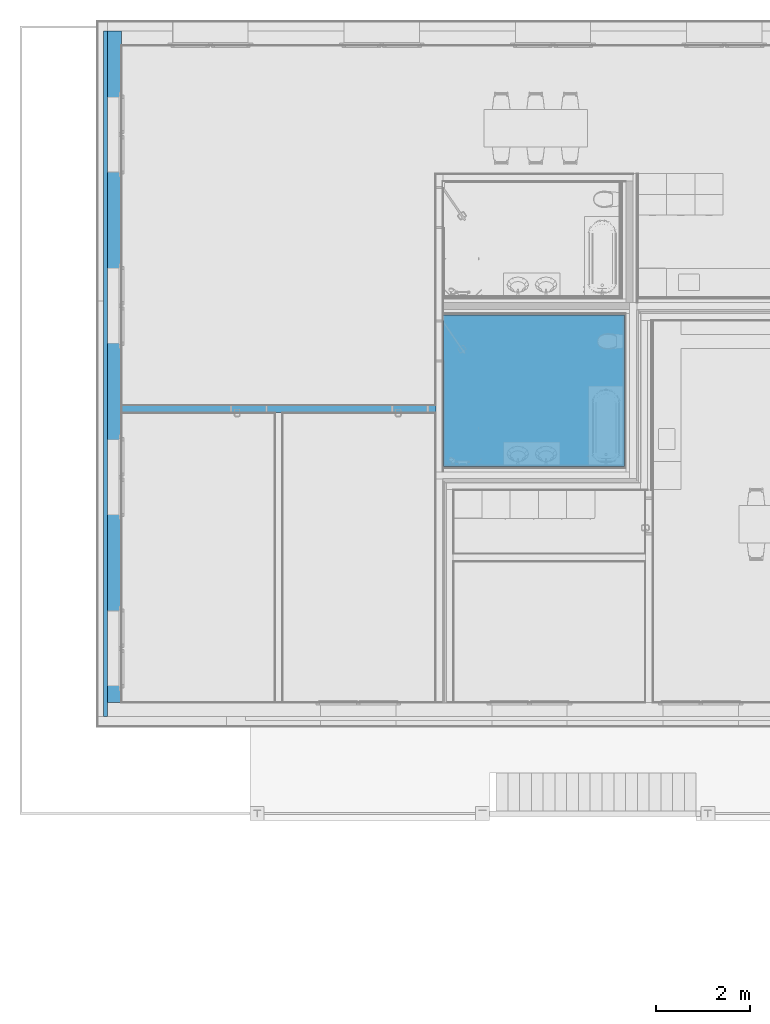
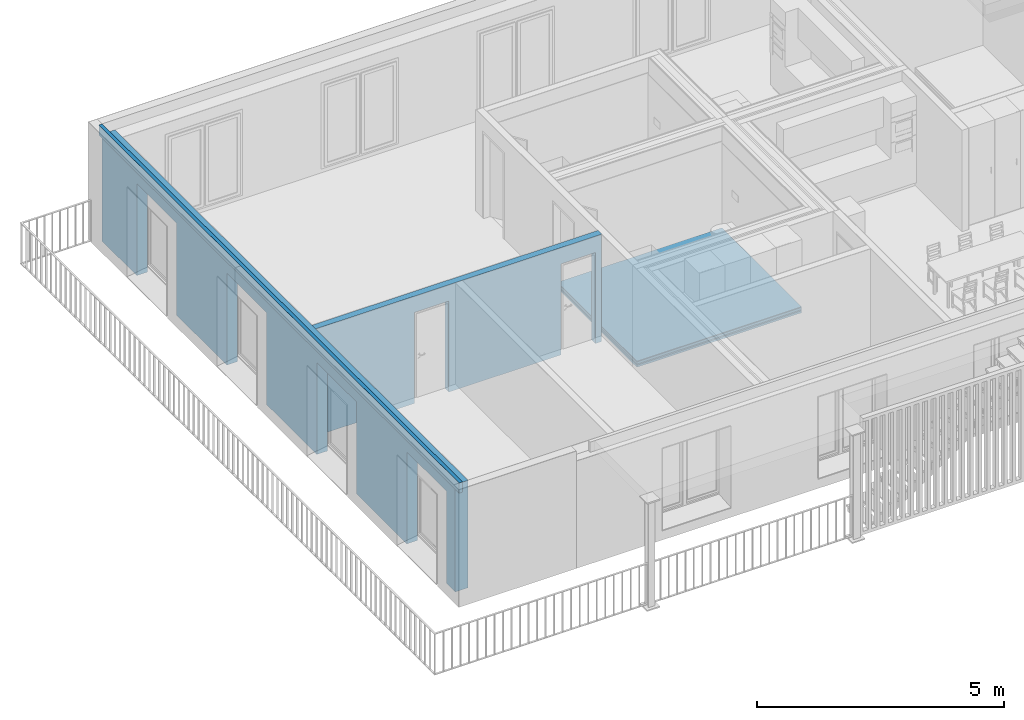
# One storey, part 6 of 34: 6 building element parts, 1 discrete accessory, 6 openings, 3 elements without a shape of their own.
"""IFC4 building model written with IfcOpenShell, lengths in millimetres."""

from ifc_helpers import new_model, entity, si_unit, converted_unit, derived_unit, direction, frame, origin_with_axes, place, context, subcontext, project, spatial, polygons, material, type_object, element, aggregate, save


model = new_model("IFC4")

# Units and contexts
model_context = context("Model", 3, precision=0.01, world=origin_with_axes(), true_north=direction((0.0, 1.0)))
body_context = subcontext(model_context, "Body", "Model", "MODEL_VIEW")
ifc_project = project(units=[si_unit("LENGTHUNIT", "METRE", prefix="MILLI"), si_unit("AREAUNIT", "SQUARE_METRE"), si_unit("VOLUMEUNIT", "CUBIC_METRE"), converted_unit("PLANEANGLEUNIT", "DEGREE", entity("IfcPlaneAngleMeasure", 0.0174532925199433), si_unit("PLANEANGLEUNIT", "RADIAN"), dimensions=[0, 0, 0, 0, 0, 0, 0]), converted_unit("TIMEUNIT", "Year", entity("IfcTimeMeasure", 31557600.0), si_unit("TIMEUNIT", "SECOND"), dimensions=[0, 0, 1, 0, 0, 0, 0]), si_unit("MASSUNIT", "GRAM", prefix="KILO"), si_unit("THERMODYNAMICTEMPERATUREUNIT", "DEGREE_CELSIUS"), si_unit("LUMINOUSINTENSITYUNIT", "LUMEN"), si_unit("ENERGYUNIT", "JOULE", prefix="MEGA"), derived_unit("THERMALCONDUCTANCEUNIT", [(si_unit("POWERUNIT", "WATT"), 1), (si_unit("LENGTHUNIT", "METRE"), -1), (si_unit("THERMODYNAMICTEMPERATUREUNIT", "KELVIN"), -1)]), derived_unit("SPECIFICHEATCAPACITYUNIT", [(si_unit("ENERGYUNIT", "JOULE"), 1), (si_unit("MASSUNIT", "GRAM", prefix="KILO"), -1), (si_unit("THERMODYNAMICTEMPERATUREUNIT", "KELVIN"), -1)]), derived_unit("MASSDENSITYUNIT", [(si_unit("MASSUNIT", "GRAM", prefix="KILO"), 1), (si_unit("VOLUMEUNIT", "CUBIC_METRE"), -1)])], contexts=[model_context])

# Site, building, storey
site_placement = place(None, origin_with_axes())
site = spatial("IfcSite", under=ifc_project, at=site_placement, Name="Gelände", CompositionType="ELEMENT")
building_placement = place(site_placement, origin_with_axes())
building = spatial("IfcBuilding", under=site, at=building_placement, Name="Gebäude", CompositionType="ELEMENT")
storey_placement = place(building_placement, frame((0.0, 0.0, 5799.999999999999), z_axis=(0.0, 0.0, 1.0), x_axis=(1.0, 0.0, 0.0)))
storey = spatial("IfcBuildingStorey", under=building, at=storey_placement, Name="2.OG", CompositionType="ELEMENT", Elevation=5800.0)

# Discrete accessory
ifc_material_1 = material(Name="Bewehrung")
discrete_accessory_type = type_object("IfcDiscreteAccessoryType", Name="Bewehrung 80 x 250", PredefinedType="NOTDEFINED")
discrete_accessory_placement = place(storey_placement, frame((-6861.004181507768, 37737.5972813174, 2649.999948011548), z_axis=(0.0, 0.0, 1.0), x_axis=(-1.0, 0.0, 0.0)))
element("IfcDiscreteAccessory", 1, at=discrete_accessory_placement, inside=storey, type_object=discrete_accessory_type, material=ifc_material_1, Name="Unterzug-028", PredefinedType="NOTDEFINED", context=body_context, shape_type="Tessellation", body=[
    polygons([(0.0, 14580.00054054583, 0.0), (80.00000000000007, 14580.00054054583, 0.0), (80.00000000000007, 0.0, 0.0), (0.0, 0.0, 0.0), (0.0, 14580.00054054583, 250.0), (80.00000000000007, 14580.00054054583, 250.0), (80.00000000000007, 0.0, 250.0), (0.0, 0.0, 250.0)], [[[1, 2, 3, 4]], [[1, 5, 6, 2]], [[2, 6, 7, 3]], [[4, 3, 7, 8]], [[5, 1, 4, 8]], [[6, 5, 8, 7]]], closed=True),
])

# Covering, building element parts
covering_type = type_object("IfcCoveringType", Name="Bodenaufbau Typ 02 150", PredefinedType="NOTDEFINED")
covering_placement = place(storey_placement, frame((282.9958184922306, 31697.59722663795, 0.0), z_axis=(0.0, 0.0, 1.0), x_axis=(1.0, 0.0, 0.0)))
covering = element("IfcCovering", 2, at=covering_placement, inside=storey, type_object=covering_type, Name="Decke-007", PredefinedType="NOTDEFINED")
ifc_material_2 = material(Name="Unterlagsboden")
building_element_part_1_placement = place(covering_placement, origin_with_axes())
building_element_part_1 = element("IfcBuildingElementPart", 3, at=building_element_part_1_placement, material=ifc_material_2, Name="Unterlagsboden", PredefinedType="NOTDEFINED", context=body_context, shape_type="Tessellation", body=[
    polygons([(0.0, -3218.223841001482, 80.00000000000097), (0.0, -3218.223841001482, 135.0000000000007), (0.0, 0.0, 135.0000000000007), (0.0, 0.0, 80.00000000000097), (3848.000000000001, -3218.223841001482, 80.00000000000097), (3848.000000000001, -3218.223841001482, 135.0000000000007), (3848.000000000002, 5.467949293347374e-05, 135.0000000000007), (3848.000000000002, 5.467949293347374e-05, 80.00000000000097)], [[[1, 2, 3, 4]], [[5, 6, 2, 1]], [[3, 2, 6, 7]], [[4, 3, 7, 8]], [[4, 8, 5, 1]], [[8, 7, 6, 5]]], closed=True),
])
ifc_material_3 = material(Name="Keramik")
building_element_part_2_placement = place(covering_placement, origin_with_axes())
building_element_part_2 = element("IfcBuildingElementPart", 4, at=building_element_part_2_placement, material=ifc_material_3, Name="Keramik", PredefinedType="NOTDEFINED", context=body_context, shape_type="Tessellation", body=[
    polygons([(0.0, -3218.223841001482, 135.0000000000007), (0.0, -3218.223841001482, 150.0000000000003), (0.0, 0.0, 150.0000000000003), (0.0, 0.0, 135.0000000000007), (3848.000000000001, -3218.223841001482, 135.0000000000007), (3848.000000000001, -3218.223841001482, 150.0000000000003), (3848.000000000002, 5.467949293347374e-05, 150.0000000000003), (3848.000000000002, 5.467949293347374e-05, 135.0000000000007)], [[[1, 2, 3, 4]], [[5, 6, 2, 1]], [[3, 2, 6, 7]], [[4, 3, 7, 8]], [[4, 8, 5, 1]], [[8, 7, 6, 5]]], closed=True),
])
ifc_material_4 = material(Name="Trittschalldämmung")
building_element_part_3_placement = place(covering_placement, origin_with_axes())
building_element_part_3 = element("IfcBuildingElementPart", 5, at=building_element_part_3_placement, material=ifc_material_4, Name="Trittschalldämmung", PredefinedType="NOTDEFINED", context=body_context, shape_type="Tessellation", body=[
    polygons([(0.0, -3218.223841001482, 49.99999999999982), (0.0, -3218.223841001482, 80.00000000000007), (0.0, 0.0, 80.00000000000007), (0.0, 0.0, 49.99999999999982), (3848.000000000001, -3218.223841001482, 49.99999999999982), (3848.000000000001, -3218.223841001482, 80.00000000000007), (3848.000000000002, 5.467949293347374e-05, 80.00000000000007), (3848.000000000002, 5.467949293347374e-05, 49.99999999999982)], [[[1, 2, 3, 4]], [[5, 6, 2, 1]], [[3, 2, 6, 7]], [[4, 3, 7, 8]], [[4, 8, 5, 1]], [[8, 7, 6, 5]]], closed=True),
])
ifc_material_5 = material(Name="Dämmung Innen")
building_element_part_4_placement = place(covering_placement, origin_with_axes())
building_element_part_4 = element("IfcBuildingElementPart", 6, at=building_element_part_4_placement, material=ifc_material_5, Name="Dämmung Innen", PredefinedType="NOTDEFINED", context=body_context, shape_type="Tessellation", body=[
    polygons([(0.0, 0.0, 0.0), (0.0, -3218.223841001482, 0.0), (0.0, -3218.223841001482, 50.00000000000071), (0.0, 0.0, 50.00000000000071), (3848.000000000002, 5.467949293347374e-05, 0.0), (3848.000000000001, -3218.223841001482, 0.0), (3848.000000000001, -3218.223841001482, 50.00000000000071), (3848.000000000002, 5.467949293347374e-05, 50.00000000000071)], [[[1, 2, 3, 4]], [[1, 5, 6, 2]], [[2, 6, 7, 3]], [[4, 3, 7, 8]], [[5, 1, 4, 8]], [[6, 5, 8, 7]]], closed=True),
])
aggregate(covering, [building_element_part_1, building_element_part_2, building_element_part_3, building_element_part_4])

# Wall, openings, building element part
wall_type_1 = type_object("IfcWallType", Name="Innenwand Typ 05 170", PredefinedType="NOTDEFINED")
wall_1_placement = place(storey_placement, frame((-6561.004181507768, 29785.08426010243, 0.0), z_axis=(0.0, 0.0, 1.0), x_axis=(1.0, 0.0, 0.0)))
wall_1 = element("IfcWall", 7, at=wall_1_placement, inside=storey, type_object=wall_type_1, Name="Wand-014", PredefinedType="NOTDEFINED")
opening_1_placement = place(wall_1_placement, frame((2710.000000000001, 0.0, 150.0000000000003), z_axis=(0.0, 0.0, 1.0), x_axis=(1.0, 0.0, 0.0)))
element("IfcOpeningElement", 8, at=opening_1_placement, cuts=wall_1, Name="Tür-011", context=body_context, identifier="Reference", shape_type="Tessellation", body=[
    polygons([(-399.9999999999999, -171.0000000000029, 2100.0), (-399.9999999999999, -171.0000000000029, -150.0000000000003), (399.9999999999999, -171.0000000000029, -150.0000000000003), (399.9999999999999, -171.0000000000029, 2100.0), (-399.9999999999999, 1.000000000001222, 2100.0), (-399.9999999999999, 1.000000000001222, -150.0000000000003), (399.9999999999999, 1.000000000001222, -150.0000000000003), (399.9999999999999, 1.000000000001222, 2100.0)], [[[1, 2, 3, 4]], [[5, 6, 2, 1]], [[6, 7, 3, 2]], [[7, 8, 4, 3]], [[8, 5, 1, 4]], [[7, 6, 5, 8]]], closed=True),
])
opening_2_placement = place(wall_1_placement, frame((6133.999999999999, 0.0, 150.0000000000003), z_axis=(0.0, 0.0, 1.0), x_axis=(1.0, 0.0, 0.0)))
element("IfcOpeningElement", 9, at=opening_2_placement, cuts=wall_1, Name="Tür-011", context=body_context, identifier="Reference", shape_type="Tessellation", body=[
    polygons([(-400.0, -171.0000000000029, 2100.0), (-400.0, -171.0000000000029, -150.0000000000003), (400.0, -171.0000000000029, -150.0000000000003), (400.0, -171.0000000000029, 2100.0), (-400.0, 1.000000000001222, 2100.0), (-400.0, 1.000000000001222, -150.0000000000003), (400.0, 1.000000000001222, -150.0000000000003), (400.0, 1.000000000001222, 2100.0)], [[[1, 2, 3, 4]], [[5, 6, 2, 1]], [[6, 7, 3, 2]], [[7, 8, 4, 3]], [[8, 5, 1, 4]], [[7, 6, 5, 8]]], closed=True),
])
ifc_material_6 = material(Name="MW, Backstein")
building_element_part_5_placement = place(wall_1_placement, origin_with_axes())
building_element_part_5 = element("IfcBuildingElementPart", 10, at=building_element_part_5_placement, material=ifc_material_6, Name="MW, Backstein", PredefinedType="NOTDEFINED", context=body_context, shape_type="Tessellation", body=[
    polygons([(2310.000000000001, -9.99999999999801, 2250.0), (2310.000000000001, -9.99999999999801, 150.0000000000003), (2310.000000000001, -10.00000000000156, 0.0), (0.0, -10.00000000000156, 0.0), (0.0, -10.00000000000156, 2649.999948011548), (6683.999999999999, -9.99999999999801, 2649.999948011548), (6683.999999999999, -9.99999999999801, 0.0), (6534.0, -9.99999999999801, 0.0), (6533.999999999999, -9.99999999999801, 150.0000000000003), (6533.999999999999, -9.99999999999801, 2250.0), (5734.0, -9.99999999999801, 2250.0), (5734.0, -9.99999999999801, 150.0000000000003), (5734.0, -9.99999999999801, 0.0), (3110.000000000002, -10.00000000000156, 0.0), (3110.000000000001, -9.99999999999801, 150.0000000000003), (3110.000000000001, -9.99999999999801, 2250.0), (2310.000000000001, -160.0000000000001, 2250.0), (2310.000000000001, -160.0000000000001, 150.0000000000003), (2310.000000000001, -160.0000000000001, 0.0), (0.0, -160.0000000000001, 0.0), (0.0, -160.0000000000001, 2649.999948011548), (6683.999999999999, -160.0000000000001, 2649.999948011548), (6683.999999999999, -160.0000000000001, 0.0), (6534.0, -160.0000000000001, 0.0), (6533.999999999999, -160.0000000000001, 150.0000000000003), (6533.999999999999, -160.0000000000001, 2250.0), (5734.0, -160.0000000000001, 2250.0), (5734.0, -160.0000000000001, 150.0000000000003), (5734.0, -160.0000000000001, 0.0), (3110.000000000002, -160.0000000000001, 0.0), (3110.000000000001, -160.0000000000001, 150.0000000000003), (3110.000000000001, -160.0000000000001, 2250.0)], [[[1, 2, 3, 4, 5, 6, 7, 8, 9, 10, 11, 12, 13, 14, 15, 16]], [[2, 1, 17, 18]], [[2, 18, 19, 3]], [[20, 4, 3, 19]], [[5, 4, 20, 21]], [[5, 21, 22, 6]], [[23, 7, 6, 22]], [[7, 23, 24, 8]], [[9, 8, 24, 25]], [[9, 25, 26, 10]], [[10, 26, 27, 11]], [[11, 27, 28, 12]], [[28, 29, 13, 12]], [[30, 14, 13, 29]], [[31, 15, 14, 30]], [[16, 15, 31, 32]], [[1, 16, 32, 17]], [[32, 31, 30, 29, 28, 27, 26, 25, 24, 23, 22, 21, 20, 19, 18, 17]]], closed=True),
])
aggregate(wall_1, [building_element_part_5])

wall_type_2 = type_object("IfcWallType", Name="Aussenwand Typ 06 310", PredefinedType="NOTDEFINED")
wall_2_placement = place(storey_placement, frame((-6861.004181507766, 37737.5972813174, 0.0), z_axis=(0.0, 0.0, 1.0), x_axis=(0.0, -1.0, 0.0)))
wall_2 = element("IfcWall", 11, at=wall_2_placement, inside=storey, type_object=wall_type_2, Name="Wand-014", PredefinedType="NOTDEFINED")
opening_3_placement = place(wall_2_placement, frame((9485.999999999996, 0.0, 139.9999480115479), z_axis=(0.0, 0.0, 1.0), x_axis=(1.0, 0.0, 0.0)))
element("IfcOpeningElement", 12, at=opening_3_placement, cuts=wall_2, Name="Fenster-004", context=body_context, identifier="Reference", shape_type="Tessellation", body=[
    polygons([(-800.0000000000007, -1.000000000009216, 2132.0), (-800.0000000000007, 0.0, 2132.0), (800.0000000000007, 0.0, 2132.0), (800.0000000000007, -1.000000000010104, 2132.0), (801.9999999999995, -1.000000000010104, 2132.0), (801.9999999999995, 250.0000000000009, 2132.0), (-801.9999999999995, 250.0000000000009, 2132.0), (-801.9999999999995, -1.000000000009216, 2132.0), (-800.0000000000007, -1.000000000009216, 2129.999999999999), (-800.0000000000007, -149.9999999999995, 2129.999999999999), (-800.0000000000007, -149.9999999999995, 2420.0), (-800.0000000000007, 0.0, 2420.0), (800.0000000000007, 0.0, 2420.0), (800.0000000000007, -149.9999999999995, 2420.0), (800.0000000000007, -149.9999999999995, 2129.999999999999), (800.0000000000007, -1.000000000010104, 2129.999999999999), (-801.9999999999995, -1.000000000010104, -139.9999999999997), (801.9999999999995, -1.000000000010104, -139.9999999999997), (801.9999999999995, 250.0000000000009, -139.9999999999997), (-801.9999999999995, 250.0000000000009, -139.9999999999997), (902.000000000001, 250.0000000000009, -139.9999999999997), (902.000000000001, 250.0000000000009, 2231.999999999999), (-902.000000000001, 250.0000000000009, 2231.999999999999), (-902.000000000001, 250.0000000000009, -139.9999999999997), (-902.000000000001, 311.0000000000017, -139.9999999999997), (902.000000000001, 311.0000000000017, -139.9999999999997), (902.000000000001, 311.0000000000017, 2231.999999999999), (-902.000000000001, 311.0000000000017, 2231.999999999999)], [[[1, 2, 3, 4, 5, 6, 7, 8]], [[2, 1, 9, 10, 11, 12]], [[3, 2, 12, 13]], [[4, 3, 13, 14, 15, 16]], [[9, 1, 8, 17, 18, 5, 4, 16]], [[19, 6, 5, 18]], [[20, 7, 6, 19, 21, 22, 23, 24]], [[7, 20, 17, 8]], [[9, 16, 15, 10]], [[11, 10, 15, 14]], [[12, 11, 14, 13]], [[20, 19, 18, 17]], [[19, 20, 24, 25, 26, 21]], [[22, 21, 26, 27]], [[23, 22, 27, 28]], [[24, 23, 28, 25]], [[27, 26, 25, 28]]], closed=True),
])
opening_4_placement = place(wall_2_placement, frame((5843.999999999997, 0.0, 139.9999480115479), z_axis=(0.0, 0.0, 1.0), x_axis=(1.0, 0.0, 0.0)))
element("IfcOpeningElement", 13, at=opening_4_placement, cuts=wall_2, Name="Fenster-004", context=body_context, identifier="Reference", shape_type="Tessellation", body=[
    polygons([(-800.0000000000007, -1.00000000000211, 2132.0), (-800.0000000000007, 0.0, 2132.0), (800.0000000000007, 0.0, 2132.0), (800.0000000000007, -1.00000000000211, 2132.0), (801.9999999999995, -1.00000000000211, 2132.0), (801.9999999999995, 250.0000000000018, 2132.0), (-802.0000000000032, 250.0000000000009, 2132.0), (-802.0000000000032, -1.00000000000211, 2132.0), (-800.0000000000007, -1.000000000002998, 2129.999999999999), (-800.0000000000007, -149.9999999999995, 2129.999999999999), (-800.0000000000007, -149.9999999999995, 2420.0), (-800.0000000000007, 0.0, 2420.0), (800.0000000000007, 0.0, 2420.0), (800.0000000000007, -149.9999999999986, 2420.0), (800.0000000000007, -149.9999999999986, 2129.999999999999), (800.0000000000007, -1.00000000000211, 2129.999999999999), (-802.0000000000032, -1.000000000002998, -139.9999999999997), (801.9999999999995, -1.00000000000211, -139.9999999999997), (801.9999999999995, 250.0000000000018, -139.9999999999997), (-802.0000000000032, 250.0000000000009, -139.9999999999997), (902.000000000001, 250.0000000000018, -139.9999999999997), (902.000000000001, 250.0000000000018, 2231.999999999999), (-901.9999999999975, 250.0000000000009, 2231.999999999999), (-901.9999999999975, 250.0000000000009, -139.9999999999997), (-901.9999999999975, 311.0000000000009, -139.9999999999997), (902.000000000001, 311.0000000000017, -139.9999999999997), (902.000000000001, 311.0000000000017, 2231.999999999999), (-901.9999999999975, 311.0000000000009, 2231.999999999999)], [[[1, 2, 3, 4, 5, 6, 7, 8]], [[2, 1, 9, 10, 11, 12]], [[3, 2, 12, 13]], [[4, 3, 13, 14, 15, 16]], [[9, 1, 8, 17, 18, 5, 4, 16]], [[19, 6, 5, 18]], [[20, 7, 6, 19, 21, 22, 23, 24]], [[7, 20, 17, 8]], [[9, 16, 15, 10]], [[11, 10, 15, 14]], [[12, 11, 14, 13]], [[20, 19, 18, 17]], [[19, 20, 24, 25, 26, 21]], [[22, 21, 26, 27]], [[23, 22, 27, 28]], [[24, 23, 28, 25]], [[27, 26, 25, 28]]], closed=True),
])
opening_5_placement = place(wall_2_placement, frame((13128.0, 0.0, 139.9999480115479), z_axis=(0.0, 0.0, 1.0), x_axis=(1.0, 0.0, 0.0)))
element("IfcOpeningElement", 14, at=opening_5_placement, cuts=wall_2, Name="Fenster-004", context=body_context, identifier="Reference", shape_type="Tessellation", body=[
    polygons([(-800.0000000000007, -1.000000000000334, 2132.0), (-800.0000000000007, 0.0, 2132.0), (800.0000000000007, 0.0, 2132.0), (800.0000000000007, -1.000000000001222, 2132.0), (801.9999999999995, -1.000000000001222, 2132.0), (801.9999999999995, 250.0000000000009, 2132.0), (-801.9999999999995, 250.0000000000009, 2132.0), (-801.9999999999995, -1.000000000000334, 2132.0), (-800.0000000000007, -1.000000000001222, 2129.999999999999), (-800.0000000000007, -149.9999999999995, 2129.999999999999), (-800.0000000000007, -149.9999999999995, 2420.0), (-800.0000000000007, 0.0, 2420.0), (800.0000000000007, 0.0, 2420.0), (800.0000000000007, -149.9999999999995, 2420.0), (800.0000000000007, -149.9999999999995, 2129.999999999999), (800.0000000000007, -1.000000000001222, 2129.999999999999), (-801.9999999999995, -1.000000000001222, -139.9999999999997), (801.9999999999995, -1.000000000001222, -139.9999999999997), (801.9999999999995, 250.0000000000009, -139.9999999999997), (-801.9999999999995, 250.0000000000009, -139.9999999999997), (902.000000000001, 250.0000000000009, -139.9999999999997), (902.000000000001, 250.0000000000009, 2231.999999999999), (-902.000000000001, 250.0000000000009, 2231.999999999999), (-902.000000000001, 250.0000000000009, -139.9999999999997), (-902.000000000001, 311.0000000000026, -139.9999999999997), (902.000000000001, 311.0000000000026, -139.9999999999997), (902.000000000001, 311.0000000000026, 2231.999999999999), (-902.000000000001, 311.0000000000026, 2231.999999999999)], [[[1, 2, 3, 4, 5, 6, 7, 8]], [[2, 1, 9, 10, 11, 12]], [[3, 2, 12, 13]], [[4, 3, 13, 14, 15, 16]], [[9, 1, 8, 17, 18, 5, 4, 16]], [[19, 6, 5, 18]], [[20, 7, 6, 19, 21, 22, 23, 24]], [[7, 20, 17, 8]], [[9, 16, 15, 10]], [[11, 10, 15, 14]], [[12, 11, 14, 13]], [[20, 19, 18, 17]], [[19, 20, 24, 25, 26, 21]], [[22, 21, 26, 27]], [[23, 22, 27, 28]], [[24, 23, 28, 25]], [[27, 26, 25, 28]]], closed=True),
])
opening_6_placement = place(wall_2_placement, frame((2202.000000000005, 0.0, 139.9999480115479), z_axis=(0.0, 0.0, 1.0), x_axis=(1.0, 0.0, 0.0)))
element("IfcOpeningElement", 15, at=opening_6_placement, cuts=wall_2, Name="Fenster-004", context=body_context, identifier="Reference", shape_type="Tessellation", body=[
    polygons([(-800.0000000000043, -1.000000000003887, 2132.0), (-800.0000000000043, 0.0, 2132.0), (799.9999999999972, 0.0, 2132.0), (799.9999999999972, -1.000000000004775, 2132.0), (801.9999999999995, -1.000000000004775, 2132.0), (801.9999999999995, 250.0000000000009, 2132.0), (-801.9999999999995, 250.0000000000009, 2132.0), (-801.9999999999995, -1.000000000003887, 2132.0), (-800.0000000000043, -1.000000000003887, 2129.999999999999), (-800.0000000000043, -149.9999999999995, 2129.999999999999), (-800.0000000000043, -149.9999999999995, 2420.0), (-800.0000000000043, 0.0, 2420.0), (799.9999999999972, 0.0, 2420.0), (799.9999999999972, -149.9999999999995, 2420.0), (799.9999999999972, -149.9999999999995, 2129.999999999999), (799.9999999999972, -1.000000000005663, 2129.999999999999), (-801.9999999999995, -1.000000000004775, -139.9999999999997), (801.9999999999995, -1.000000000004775, -139.9999999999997), (801.9999999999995, 250.0000000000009, -139.9999999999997), (-801.9999999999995, 250.0000000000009, -139.9999999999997), (902.000000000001, 250.0000000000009, -139.9999999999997), (902.000000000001, 250.0000000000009, 2231.999999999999), (-902.000000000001, 250.0000000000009, 2231.999999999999), (-902.000000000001, 250.0000000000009, -139.9999999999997), (-902.000000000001, 310.9999999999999, -139.9999999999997), (902.000000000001, 310.9999999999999, -139.9999999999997), (902.000000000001, 310.9999999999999, 2231.999999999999), (-902.000000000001, 310.9999999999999, 2231.999999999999)], [[[1, 2, 3, 4, 5, 6, 7, 8]], [[2, 1, 9, 10, 11, 12]], [[3, 2, 12, 13]], [[4, 3, 13, 14, 15, 16]], [[9, 1, 8, 17, 18, 5, 4, 16]], [[19, 6, 5, 18]], [[20, 7, 6, 19, 21, 22, 23, 24]], [[7, 20, 17, 8]], [[9, 16, 15, 10]], [[11, 10, 15, 14]], [[12, 11, 14, 13]], [[20, 19, 18, 17]], [[19, 20, 24, 25, 26, 21]], [[22, 21, 26, 27]], [[23, 22, 27, 28]], [[24, 23, 28, 25]], [[27, 26, 25, 28]]], closed=True),
])
ifc_material_7 = material(Name="Beton bewehrt")
building_element_part_6_placement = place(wall_2_placement, origin_with_axes())
building_element_part_6 = element("IfcBuildingElementPart", 16, at=building_element_part_6_placement, material=ifc_material_7, Name="Beton bewehrt", PredefinedType="NOTDEFINED", context=body_context, shape_type="Tessellation", body=[
    polygons([(3104.000000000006, 299.9999999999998, -5.198845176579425e-05), (3104.000000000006, 300.0000000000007, 2371.999948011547), (1300.000000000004, 300.0000000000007, 2371.999948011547), (1300.000000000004, 300.0000000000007, -5.198845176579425e-05), (0.0, 299.9999999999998, 0.0), (0.0, 299.9999999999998, 2650.0), (14280.00054054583, 300.0000000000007, 2650.0), (14280.00054054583, 300.0000000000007, 0.0), (14030.0, 300.0000000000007, -5.198845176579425e-05), (14030.0, 300.0000000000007, 2371.999948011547), (12226.0, 300.0000000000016, 2371.999948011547), (12226.0, 300.0000000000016, -5.198845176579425e-05), (10388.0, 300.0000000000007, -5.198845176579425e-05), (10388.0, 300.0000000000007, 2371.999948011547), (8583.999999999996, 300.0000000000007, 2371.999948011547), (8583.999999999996, 300.0000000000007, -5.198845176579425e-05), (6745.999999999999, 300.0000000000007, -5.198845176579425e-05), (6745.999999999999, 300.0000000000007, 2371.999948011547), (4942.0, 299.9999999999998, 2371.999948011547), (4942.0, 299.9999999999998, -5.198845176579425e-05), (3104.000000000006, 250.0000000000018, -5.198845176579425e-05), (3104.000000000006, 250.0000000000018, 2371.999948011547), (1300.000000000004, 250.0000000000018, 2371.999948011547), (1300.000000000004, 250.0000000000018, -5.198845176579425e-05), (1400.000000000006, 250.0000000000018, -5.198845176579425e-05), (1400.000000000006, 0.0, -5.198845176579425e-05), (0.0, 0.0, 0.0), (0.0, 0.0, 2650.0), (14280.00054054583, 0.0, 2650.0), (14280.00054054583, 0.0, 0.0), (14030.0, 250.0000000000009, -5.198845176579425e-05), (13930.0, 0.0, -5.198845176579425e-05), (13930.0, 250.0000000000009, -5.198845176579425e-05), (14030.0, 250.0000000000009, 2371.999948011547), (12226.0, 250.0000000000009, 2371.999948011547), (12226.0, 250.0000000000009, -5.198845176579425e-05), (12326.0, 0.0, -5.198845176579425e-05), (10288.0, 0.0, -5.198845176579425e-05), (10288.0, 250.0000000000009, -5.198845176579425e-05), (10388.0, 250.0000000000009, -5.198845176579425e-05), (12326.0, 250.0000000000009, -5.198845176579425e-05), (10388.0, 250.0000000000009, 2371.999948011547), (8583.999999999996, 250.0000000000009, 2371.999948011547), (8583.999999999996, 250.0000000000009, -5.198845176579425e-05), (8683.999999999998, 250.0000000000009, -5.198845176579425e-05), (8683.999999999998, 0.0, -5.198845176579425e-05), (6645.999999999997, 0.0, -5.198845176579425e-05), (6645.999999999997, 250.0000000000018, -5.198845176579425e-05), (6745.999999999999, 250.0000000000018, -5.198845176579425e-05), (6745.999999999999, 250.0000000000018, 2371.999948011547), (4942.0, 250.0000000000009, 2371.999948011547), (4942.0, 250.0000000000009, -5.198845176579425e-05), (5041.999999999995, 250.0000000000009, -5.198845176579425e-05), (5041.999999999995, 0.0, -5.198845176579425e-05), (3004.000000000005, 0.0, -5.198845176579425e-05), (3004.000000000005, 250.0000000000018, -5.198845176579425e-05), (3004.000000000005, 250.0000000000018, 2271.999948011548), (1400.000000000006, 250.0000000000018, 2271.999948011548), (1400.000000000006, 0.0, 2271.999948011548), (3004.000000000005, 0.0, 2271.999948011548), (5041.999999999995, 0.0, 2271.999948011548), (6645.999999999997, 0.0, 2271.999948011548), (8683.999999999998, 0.0, 2271.999948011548), (10288.0, 0.0, 2271.999948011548), (12326.0, 0.0, 2271.999948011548), (13930.0, 0.0, 2271.999948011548), (13930.0, 250.0000000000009, 2271.999948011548), (12326.0, 250.0000000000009, 2271.999948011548), (10288.0, 250.0000000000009, 2271.999948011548), (8683.999999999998, 250.0000000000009, 2271.999948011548), (6645.999999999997, 250.0000000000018, 2271.999948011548), (5041.999999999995, 250.0000000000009, 2271.999948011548)], [[[1, 2, 3, 4, 5, 6, 7, 8, 9, 10, 11, 12, 13, 14, 15, 16, 17, 18, 19, 20]], [[2, 1, 21, 22]], [[3, 2, 22, 23]], [[4, 3, 23, 24]], [[24, 25, 26, 27, 5, 4]], [[6, 5, 27, 28]], [[29, 7, 6, 28]], [[30, 8, 7, 29]], [[31, 9, 8, 30, 32, 33]], [[31, 34, 10, 9]], [[34, 35, 11, 10]], [[35, 36, 12, 11]], [[37, 38, 39, 40, 13, 12, 36, 41]], [[40, 42, 14, 13]], [[42, 43, 15, 14]], [[43, 44, 16, 15]], [[45, 46, 47, 48, 49, 17, 16, 44]], [[18, 17, 49, 50]], [[19, 18, 50, 51]], [[20, 19, 51, 52]], [[21, 1, 20, 52, 53, 54, 55, 56]], [[25, 24, 23, 22, 21, 56, 57, 58]], [[25, 58, 59, 26]], [[27, 26, 59, 60, 55, 54, 61, 62, 47, 46, 63, 64, 38, 37, 65, 66, 32, 30, 29, 28]], [[32, 66, 67, 33]], [[35, 34, 31, 33, 67, 68, 41, 36]], [[38, 64, 69, 39]], [[69, 70, 45, 44, 43, 42, 40, 39]], [[65, 37, 41, 68]], [[63, 46, 45, 70]], [[71, 48, 47, 62]], [[49, 48, 71, 72, 53, 52, 51, 50]], [[53, 72, 61, 54]], [[57, 56, 55, 60]], [[58, 57, 60, 59]], [[72, 71, 62, 61]], [[64, 63, 70, 69]], [[66, 65, 68, 67]]], closed=True),
])
aggregate(wall_2, [building_element_part_6])

save(model, "model.ifc")
